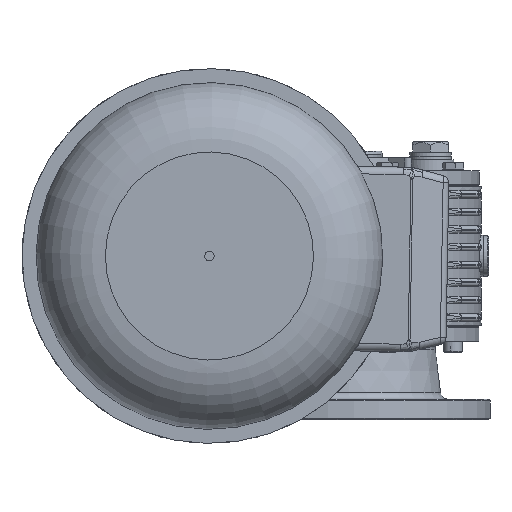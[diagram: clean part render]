
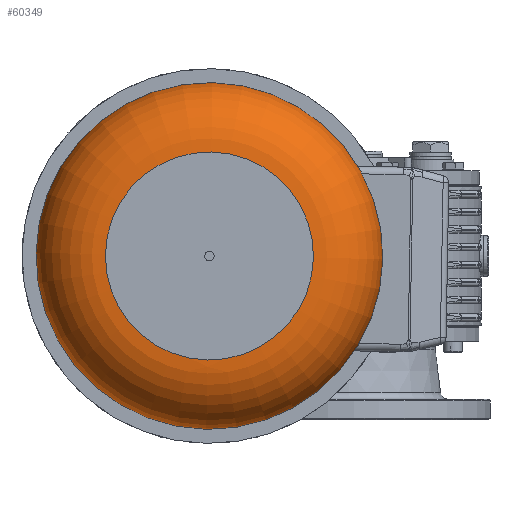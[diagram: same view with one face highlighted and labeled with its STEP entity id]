
A CAD part, left-side view. The second image highlights one B-rep face of the part: STEP entity #60349.
In plain terms, the highlighted toroidal (fillet/blend) face has major radius 55.5 mm and minor radius 37 mm.
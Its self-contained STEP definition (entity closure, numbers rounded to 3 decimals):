
#60322=CARTESIAN_POINT('',(399.,0.0,0.0));
#60323=DIRECTION('',(1.0,0.0,0.0));
#60324=DIRECTION('',(0.0,0.0,-1.0));
#60325=AXIS2_PLACEMENT_3D('',#60322,#60323,#60324);
#60326=TOROIDAL_SURFACE('',#60325,55.5,37.0);
#60327=CARTESIAN_POINT('',(436.,55.5,0.0));
#60328=VERTEX_POINT('',#60327);
#60329=CARTESIAN_POINT('',(436.,0.0,0.0));
#60330=DIRECTION('',(1.0,0.0,0.0));
#60331=DIRECTION('',(0.0,1.0,0.0));
#60332=AXIS2_PLACEMENT_3D('',#60329,#60330,#60331);
#60333=CIRCLE('',#60332,55.5);
#60334=EDGE_CURVE('',#60328,#60328,#60333,.T.);
#60335=ORIENTED_EDGE('',*,*,#60334,.F.);
#60336=EDGE_LOOP('',(#60335));
#60337=FACE_OUTER_BOUND('',#60336,.T.);
#60338=CARTESIAN_POINT('',(399.,92.5,0.0));
#60339=VERTEX_POINT('',#60338);
#60340=CARTESIAN_POINT('',(399.,0.0,0.0));
#60341=DIRECTION('',(1.0,0.0,0.0));
#60342=DIRECTION('',(0.0,1.0,0.0));
#60343=AXIS2_PLACEMENT_3D('',#60340,#60341,#60342);
#60344=CIRCLE('',#60343,92.5);
#60345=EDGE_CURVE('',#60339,#60339,#60344,.T.);
#60346=ORIENTED_EDGE('',*,*,#60345,.T.);
#60347=EDGE_LOOP('',(#60346));
#60348=FACE_BOUND('',#60347,.T.);
#60349=ADVANCED_FACE('',(#60337,#60348),#60326,.T.);
